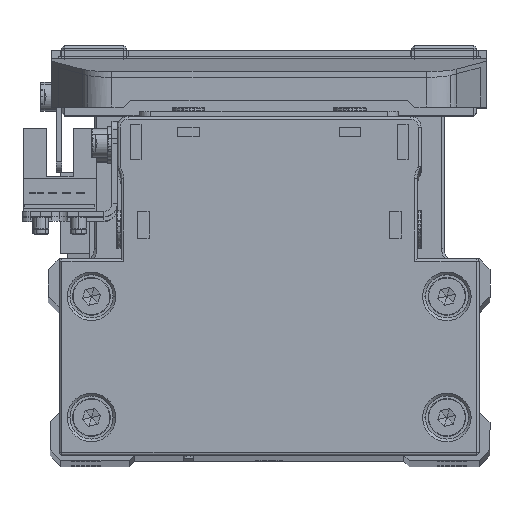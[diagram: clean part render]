
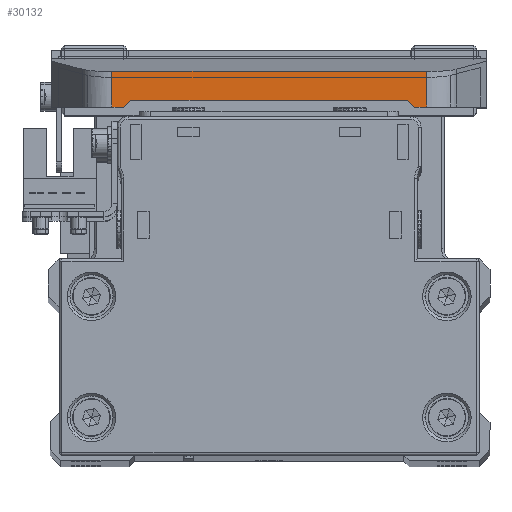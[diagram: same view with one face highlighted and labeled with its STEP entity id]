
A CAD part, top view. The second image highlights one B-rep face of the part: STEP entity #30132.
In plain terms, the highlighted planar face has unit normal (0, 0, 1) as drawn and (-1, 0, 0) by its records, which use the part's own axes.
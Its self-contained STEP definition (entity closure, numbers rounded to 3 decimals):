
#133 = ORIENTED_EDGE ( 'NONE', *, *, #3101, .T. ) ;
#2042 = DIRECTION ( 'NONE',  ( 0., 1., 0. ) ) ;
#2116 = PLANE ( 'NONE',  #22127 ) ;
#3101 = EDGE_CURVE ( 'NONE', #38094, #19101, #34886, .T. ) ;
#3416 = VECTOR ( 'NONE', #35993, 1000. ) ;
#3719 = LINE ( 'NONE', #15675, #29200 ) ;
#3747 = EDGE_CURVE ( 'NONE', #23968, #24054, #12078, .T. ) ;
#4046 = EDGE_CURVE ( 'NONE', #19101, #23968, #11066, .T. ) ;
#5408 = CARTESIAN_POINT ( 'NONE',  ( -67.5, 10.6, 27. ) ) ;
#6177 = VERTEX_POINT ( 'NONE', #31256 ) ;
#6359 = CARTESIAN_POINT ( 'NONE',  ( -67.5, 10.6, -27. ) ) ;
#8024 = CARTESIAN_POINT ( 'NONE',  ( -67.5, 10.6, -27. ) ) ;
#8134 = DIRECTION ( 'NONE',  ( 0., -0.655, -0.756 ) ) ;
#9570 = EDGE_CURVE ( 'NONE', #26116, #6177, #16934, .T. ) ;
#10520 = VERTEX_POINT ( 'NONE', #5408 ) ;
#11066 = LINE ( 'NONE', #23027, #30985 ) ;
#11827 = DIRECTION ( 'NONE',  ( 0., 0., -1. ) ) ;
#12078 = LINE ( 'NONE', #24037, #3416 ) ;
#12757 = VECTOR ( 'NONE', #19990, 1000. ) ;
#14058 = VERTEX_POINT ( 'NONE', #33706 ) ;
#14060 = CARTESIAN_POINT ( 'NONE',  ( -67.5, 10.6, 40.4 ) ) ;
#15189 = VECTOR ( 'NONE', #8134, 1000. ) ;
#15675 = CARTESIAN_POINT ( 'NONE',  ( -67.5, 4., 40.4 ) ) ;
#16699 = CARTESIAN_POINT ( 'NONE',  ( -67.5, 10.6, 40.4 ) ) ;
#16934 = LINE ( 'NONE', #28901, #18634 ) ;
#18348 = ORIENTED_EDGE ( 'NONE', *, *, #9570, .T. ) ;
#18634 = VECTOR ( 'NONE', #2042, 1000. ) ;
#19101 = VERTEX_POINT ( 'NONE', #6359 ) ;
#19990 = DIRECTION ( 'NONE',  ( 0., 0.655, -0.756 ) ) ;
#20141 = EDGE_CURVE ( 'NONE', #26116, #24054, #3719, .T. ) ;
#20218 = CARTESIAN_POINT ( 'NONE',  ( -67.5, 4., -29.225 ) ) ;
#22127 = AXIS2_PLACEMENT_3D ( 'NONE', #14060, #26024, #37978 ) ;
#23027 = CARTESIAN_POINT ( 'NONE',  ( -67.5, 10.6, 40.4 ) ) ;
#23036 = LINE ( 'NONE', #34996, #15189 ) ;
#23069 = CARTESIAN_POINT ( 'NONE',  ( -67.5, 9.3, -25.5 ) ) ;
#23968 = VERTEX_POINT ( 'NONE', #31791 ) ;
#24037 = CARTESIAN_POINT ( 'NONE',  ( -67.5, 4., -29.225 ) ) ;
#24054 = VERTEX_POINT ( 'NONE', #20218 ) ;
#24410 = ORIENTED_EDGE ( 'NONE', *, *, #38564, .T. ) ;
#25750 = EDGE_LOOP ( 'NONE', ( #32151, #133, #34993, #36483, #29105, #18348, #31503, #24410 ) ) ;
#26024 = DIRECTION ( 'NONE',  ( 1., 0., 0. ) ) ;
#26116 = VERTEX_POINT ( 'NONE', #27994 ) ;
#26174 = EDGE_CURVE ( 'NONE', #14058, #38094, #26739, .T. ) ;
#26739 = LINE ( 'NONE', #38687, #35735 ) ;
#27648 = DIRECTION ( 'NONE',  ( 0., 0., -1. ) ) ;
#27994 = CARTESIAN_POINT ( 'NONE',  ( -67.5, 4., 29.225 ) ) ;
#28669 = DIRECTION ( 'NONE',  ( 0., 0., -1. ) ) ;
#28901 = CARTESIAN_POINT ( 'NONE',  ( -67.5, 10.6, 29.225 ) ) ;
#28980 = FACE_OUTER_BOUND ( 'NONE', #25750, .T. ) ;
#29105 = ORIENTED_EDGE ( 'NONE', *, *, #20141, .F. ) ;
#29200 = VECTOR ( 'NONE', #27648, 1000. ) ;
#30132 = ADVANCED_FACE ( 'NONE', ( #28980 ), #2116, .F. ) ;
#30720 = LINE ( 'NONE', #16699, #34148 ) ;
#30985 = VECTOR ( 'NONE', #34991, 1000. ) ;
#31256 = CARTESIAN_POINT ( 'NONE',  ( -67.5, 10.6, 29.225 ) ) ;
#31503 = ORIENTED_EDGE ( 'NONE', *, *, #34664, .T. ) ;
#31791 = CARTESIAN_POINT ( 'NONE',  ( -67.5, 10.6, -29.225 ) ) ;
#32151 = ORIENTED_EDGE ( 'NONE', *, *, #26174, .T. ) ;
#33706 = CARTESIAN_POINT ( 'NONE',  ( -67.5, 9.3, 25.5 ) ) ;
#34148 = VECTOR ( 'NONE', #28669, 1000. ) ;
#34664 = EDGE_CURVE ( 'NONE', #6177, #10520, #30720, .T. ) ;
#34886 = LINE ( 'NONE', #8024, #12757 ) ;
#34991 = DIRECTION ( 'NONE',  ( 0., 0., -1. ) ) ;
#34993 = ORIENTED_EDGE ( 'NONE', *, *, #4046, .T. ) ;
#34996 = CARTESIAN_POINT ( 'NONE',  ( -67.5, 10.6, 27. ) ) ;
#35735 = VECTOR ( 'NONE', #11827, 1000. ) ;
#35993 = DIRECTION ( 'NONE',  ( 0., -1., 0. ) ) ;
#36483 = ORIENTED_EDGE ( 'NONE', *, *, #3747, .T. ) ;
#37978 = DIRECTION ( 'NONE',  ( 0., 0., -1. ) ) ;
#38094 = VERTEX_POINT ( 'NONE', #23069 ) ;
#38564 = EDGE_CURVE ( 'NONE', #10520, #14058, #23036, .T. ) ;
#38687 = CARTESIAN_POINT ( 'NONE',  ( -67.5, 9.3, 25.5 ) ) ;
